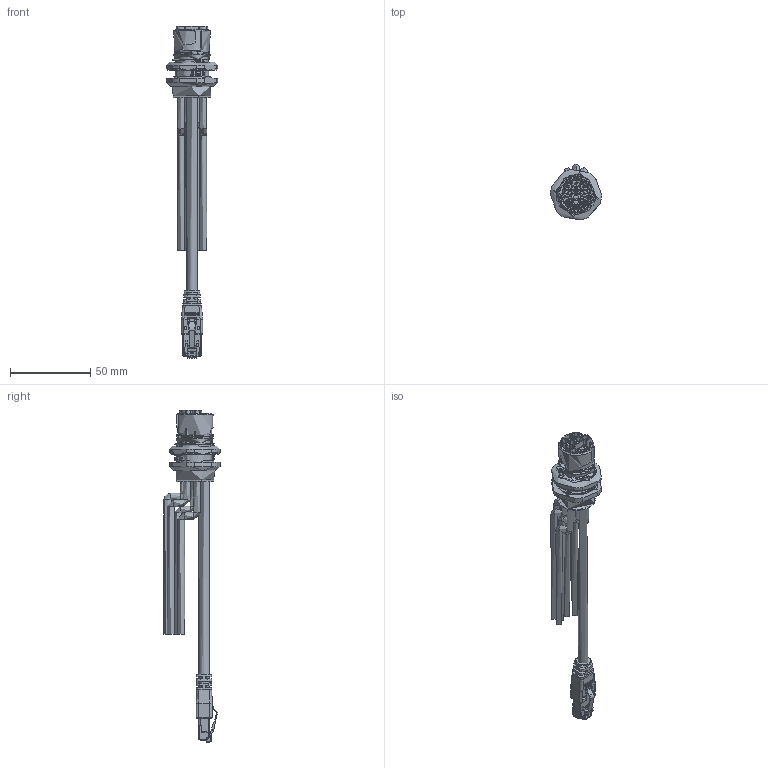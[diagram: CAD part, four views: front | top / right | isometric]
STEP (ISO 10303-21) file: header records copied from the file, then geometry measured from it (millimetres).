
FILE_DESCRIPTION(/* description */ (''),/* implementation_level */ '2;1');
FILE_NAME(/* name */ 'ZK7A55-CX00-Axxx.stp',/* time_stamp */ '2026-05-15T15:09:51+02:00',/* author */ ('JoshuaW'),/* organization */ (''),/* preprocessor_version */ 'ST-DEVELOPER v20.1',/* originating_system */ 'Autodesk Inventor 2026',/* authorisation */ '');
FILE_SCHEMA (('AUTOMOTIVE_DESIGN { 1 0 10303 214 3 1 1 }'));
Length unit declared in the file: millimetre
Products named in the file (1): 0000036875_ZK7A55-CX00-Axxx._web
Bounding box: 32 x 34.99 x 207.43 mm (x, y, z)
Volume: 36635.1 mm3; surface area: 32980.7 mm2
Topology: 1 solids, 8 shells, 3203 faces, 8780 edges, 5517 vertices
Faces by surface type: plane 1645, cylinder 827, bspline 337, torus 291, cone 87, sphere 16
Full cylindrical faces by diameter (mm): 0.6 x4, 0.9 x4, 1 x4, 1.4 x1, 1.5 x4, 1.6 x1, 1.76 x1, 1.8 x7, 1.95 x7, 2.5 x1, 2.6 x7, 3 x1, 4.4 x18, 6.5 x1, 6.9 x1, 8 x1, 19.85 x1, 21 x2, 21.2 x1, 21.7 x2, 23 x2, 23.2 x1, 23.8 x1, 24.6 x1, 25 x3, 28.1 x1, 28.6 x1
Entity records: 119203 total; most frequent: CARTESIAN_POINT 36232, ORIENTED_EDGE 17378, DIRECTION 16019, EDGE_CURVE 8689, VERTEX_POINT 5515, AXIS2_PLACEMENT_3D 5453, LINE 5113, VECTOR 5113
